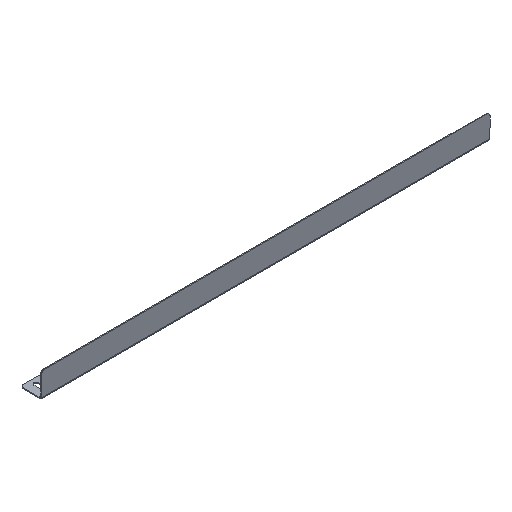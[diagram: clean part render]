
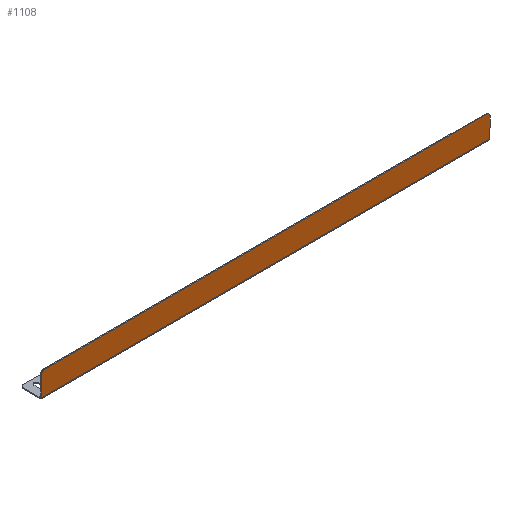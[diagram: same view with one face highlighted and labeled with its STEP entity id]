
A CAD part, isometric view. The second image highlights one B-rep face of the part: STEP entity #1108.
In plain terms, the highlighted planar face has unit normal (0, -1, 0).
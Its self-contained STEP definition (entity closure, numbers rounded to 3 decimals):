
#7 = DIRECTION ( 'NONE',  ( 0., 0., -1. ) ) ;
#59 = DIRECTION ( 'NONE',  ( 0., 0., 1. ) ) ;
#73 = CARTESIAN_POINT ( 'NONE',  ( 361., -17.5, 38.5 ) ) ;
#75 = CARTESIAN_POINT ( 'NONE',  ( -366., -17.5, 1. ) ) ;
#83 = ORIENTED_EDGE ( 'NONE', *, *, #531, .T. ) ;
#94 = EDGE_CURVE ( 'NONE', #1384, #690, #1040, .T. ) ;
#143 = CIRCLE ( 'NONE', #889, 5. ) ;
#195 = EDGE_CURVE ( 'NONE', #1269, #1152, #543, .T. ) ;
#211 = EDGE_LOOP ( 'NONE', ( #1254, #581, #633, #83, #1247, #1213 ) ) ;
#273 = DIRECTION ( 'NONE',  ( 0., 0., 1. ) ) ;
#282 = CARTESIAN_POINT ( 'NONE',  ( -366., -17.5, 1. ) ) ;
#351 = DIRECTION ( 'NONE',  ( 0., 0., 1. ) ) ;
#368 = CARTESIAN_POINT ( 'NONE',  ( 0., -17.5, 38.5 ) ) ;
#387 = DIRECTION ( 'NONE',  ( 0., 0., 1. ) ) ;
#395 = VECTOR ( 'NONE', #7, 1000. ) ;
#443 = CARTESIAN_POINT ( 'NONE',  ( -366., -17.5, 0. ) ) ;
#475 = DIRECTION ( 'NONE',  ( -1., 0., 0. ) ) ;
#502 = DIRECTION ( 'NONE',  ( -1., 0., 0. ) ) ;
#531 = EDGE_CURVE ( 'NONE', #1055, #1384, #143, .T. ) ;
#543 = CIRCLE ( 'NONE', #1404, 5. ) ;
#581 = ORIENTED_EDGE ( 'NONE', *, *, #195, .T. ) ;
#582 = EDGE_CURVE ( 'NONE', #1041, #690, #1120, .T. ) ;
#595 = LINE ( 'NONE', #1246, #1339 ) ;
#633 = ORIENTED_EDGE ( 'NONE', *, *, #1090, .T. ) ;
#672 = VECTOR ( 'NONE', #502, 1000. ) ;
#688 = CARTESIAN_POINT ( 'NONE',  ( -361., -17.5, 38.5 ) ) ;
#690 = VERTEX_POINT ( 'NONE', #75 ) ;
#716 = CARTESIAN_POINT ( 'NONE',  ( -361., -17.5, 33.5 ) ) ;
#889 = AXIS2_PLACEMENT_3D ( 'NONE', #716, #931, #59 ) ;
#902 = CARTESIAN_POINT ( 'NONE',  ( 361., -17.5, 33.5 ) ) ;
#916 = CARTESIAN_POINT ( 'NONE',  ( -366., -17.5, 33.5 ) ) ;
#924 = PLANE ( 'NONE',  #1146 ) ;
#931 = DIRECTION ( 'NONE',  ( 0., -1., 0. ) ) ;
#935 = LINE ( 'NONE', #368, #979 ) ;
#979 = VECTOR ( 'NONE', #475, 1000. ) ;
#1040 = LINE ( 'NONE', #443, #395 ) ;
#1041 = VERTEX_POINT ( 'NONE', #1335 ) ;
#1055 = VERTEX_POINT ( 'NONE', #688 ) ;
#1090 = EDGE_CURVE ( 'NONE', #1152, #1055, #935, .T. ) ;
#1108 = ADVANCED_FACE ( 'NONE', ( #1362 ), #924, .F. ) ;
#1109 = DIRECTION ( 'NONE',  ( 0., -1., 0. ) ) ;
#1120 = LINE ( 'NONE', #282, #672 ) ;
#1143 = EDGE_CURVE ( 'NONE', #1041, #1269, #595, .T. ) ;
#1146 = AXIS2_PLACEMENT_3D ( 'NONE', #1238, #1230, #273 ) ;
#1152 = VERTEX_POINT ( 'NONE', #73 ) ;
#1213 = ORIENTED_EDGE ( 'NONE', *, *, #582, .F. ) ;
#1230 = DIRECTION ( 'NONE',  ( 0., 1., 0. ) ) ;
#1238 = CARTESIAN_POINT ( 'NONE',  ( 0., -17.5, 0. ) ) ;
#1246 = CARTESIAN_POINT ( 'NONE',  ( 366., -17.5, 0. ) ) ;
#1247 = ORIENTED_EDGE ( 'NONE', *, *, #94, .T. ) ;
#1254 = ORIENTED_EDGE ( 'NONE', *, *, #1143, .T. ) ;
#1269 = VERTEX_POINT ( 'NONE', #1331 ) ;
#1331 = CARTESIAN_POINT ( 'NONE',  ( 366., -17.5, 33.5 ) ) ;
#1335 = CARTESIAN_POINT ( 'NONE',  ( 366., -17.5, 1. ) ) ;
#1339 = VECTOR ( 'NONE', #387, 1000. ) ;
#1362 = FACE_OUTER_BOUND ( 'NONE', #211, .T. ) ;
#1384 = VERTEX_POINT ( 'NONE', #916 ) ;
#1404 = AXIS2_PLACEMENT_3D ( 'NONE', #902, #1109, #351 ) ;
